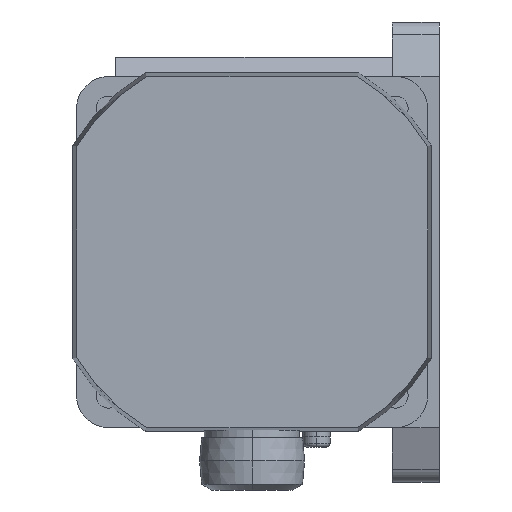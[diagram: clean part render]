
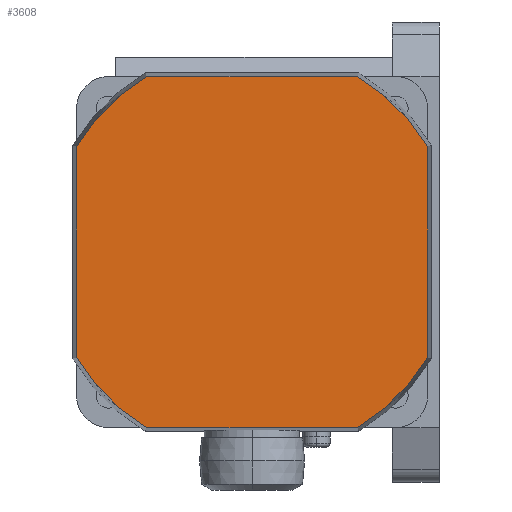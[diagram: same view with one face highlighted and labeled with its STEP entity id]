
A CAD part, left-side view. The second image highlights one B-rep face of the part: STEP entity #3608.
In plain terms, the highlighted planar face has unit normal (-1, 0, 0).
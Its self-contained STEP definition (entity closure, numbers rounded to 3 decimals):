
#3388=CARTESIAN_POINT('POINT151670',(-255.5,93.,
   10.042));
#3389=VERTEX_POINT('VERTEX151670',#3388);
#3396=CARTESIAN_POINT('POINT151671',(-255.5,75.042,
   28.));
#3397=VERTEX_POINT('VERTEX151671',#3396);
#3398=CARTESIAN_POINT('POS249964',(-255.5,48.,-17.));
#3399=DIRECTION('DIR378765',(1.,0.,0.));
#3400=DIRECTION('DIR378766',(0.,0.,-1.))
   ;
#3401=AXIS2_PLACEMENT_3D('AXIS128802',#3398,#3399,#3400);
#3402=CIRCLE('ELLIPSE58831',#3401,52.5);
#3403=EDGE_CURVE('EDGE231602',#3389,#3397,#3402,.T.);
#3429=CARTESIAN_POINT('POINT151673',(-255.5,20.958,
   28.));
#3430=VERTEX_POINT('VERTEX151673',#3429);
#3431=CARTESIAN_POINT('POS249967',(-255.5,48.,
   28.));
#3432=DIRECTION('DIR378771',(0.,1.,0.));
#3433=VECTOR('VEC121163',#3432,1.);
#3434=LINE('STRAIGHT121163',#3431,#3433);
#3435=EDGE_CURVE('EDGE231605',#3430,#3397,#3434,.T.);
#3460=CARTESIAN_POINT('POINT151675',(-255.5,3.,
   10.042));
#3461=VERTEX_POINT('VERTEX151675',#3460);
#3462=EDGE_CURVE('EDGE231608',#3430,#3461,#3402,.T.);
#3477=CARTESIAN_POINT('POINT151677',(-255.5,93.,
   -44.042));
#3478=VERTEX_POINT('VERTEX151677',#3477);
#3487=CARTESIAN_POINT('POS249970',(-255.5,93.,
   -5.875));
#3488=DIRECTION('DIR378775',(0.,0.,-1.));
#3489=VECTOR('VEC121165',#3488,1.);
#3490=LINE('STRAIGHT121165',#3487,#3489);
#3491=EDGE_CURVE('EDGE231612',#3389,#3478,#3490,.T.);
#3509=CARTESIAN_POINT('POINT151679',(-255.5,3.,
   -44.042));
#3510=VERTEX_POINT('VERTEX151679',#3509);
#3511=CARTESIAN_POINT('POS249973',(-255.5,3.,
   -5.875));
#3512=DIRECTION('DIR378779',(0.,0.,1.));
#3513=VECTOR('VEC121167',#3512,1.);
#3514=LINE('STRAIGHT121167',#3511,#3513);
#3515=EDGE_CURVE('EDGE231614',#3510,#3461,#3514,.T.);
#3572=CARTESIAN_POINT('POINT151683',(-255.5,75.042,
   -62.));
#3573=VERTEX_POINT('VERTEX151683',#3572);
#3580=EDGE_CURVE('EDGE231621',#3573,#3478,#3402,.T.);
#3585=ORIENTED_EDGE('COEDGE463233',*,*,#3491,.T.);
#3586=ORIENTED_EDGE('COEDGE463234',*,*,#3580,.F.);
#3587=CARTESIAN_POINT('POINT151684',(-255.5,20.958,
   -62.));
#3588=VERTEX_POINT('VERTEX151684',#3587);
#3589=CARTESIAN_POINT('POS249978',(-255.5,48.,-62.));
#3590=DIRECTION('DIR378786',(0.,-1.,0.));
#3591=VECTOR('VEC121170',#3590,1.);
#3592=LINE('STRAIGHT121170',#3589,#3591);
#3593=EDGE_CURVE('EDGE231622',#3573,#3588,#3592,.T.);
#3594=ORIENTED_EDGE('COEDGE463235',*,*,#3593,.T.);
#3595=EDGE_CURVE('EDGE231623',#3510,#3588,#3402,.T.);
#3596=ORIENTED_EDGE('COEDGE463236',*,*,#3595,.F.);
#3597=ORIENTED_EDGE('COEDGE463237',*,*,#3515,.T.);
#3598=ORIENTED_EDGE('COEDGE463238',*,*,#3462,.F.);
#3599=ORIENTED_EDGE('COEDGE463239',*,*,#3435,.T.);
#3600=ORIENTED_EDGE('COEDGE463240',*,*,#3403,.F.);
#3601=EDGE_LOOP('NONE',(#3585,#3586,#3594,#3596,#3597,#3598,#3599,#3600)
   );
#3602=FACE_BOUND('LOOP1',#3601,.T.);
#3603=CARTESIAN_POINT('POS249979',(-255.5,48.,
   5.25));
#3604=DIRECTION('DIR378787',(-1.,0.,0.));
#3605=DIRECTION('DIR378788',(0.,1.,0.));
#3606=AXIS2_PLACEMENT_3D('AXIS128809',#3603,#3604,#3605);
#3607=PLANE('PLANE41600',#3606);
#3608=ADVANCED_FACE('FACE95171',(#3602),#3607,.T.);
